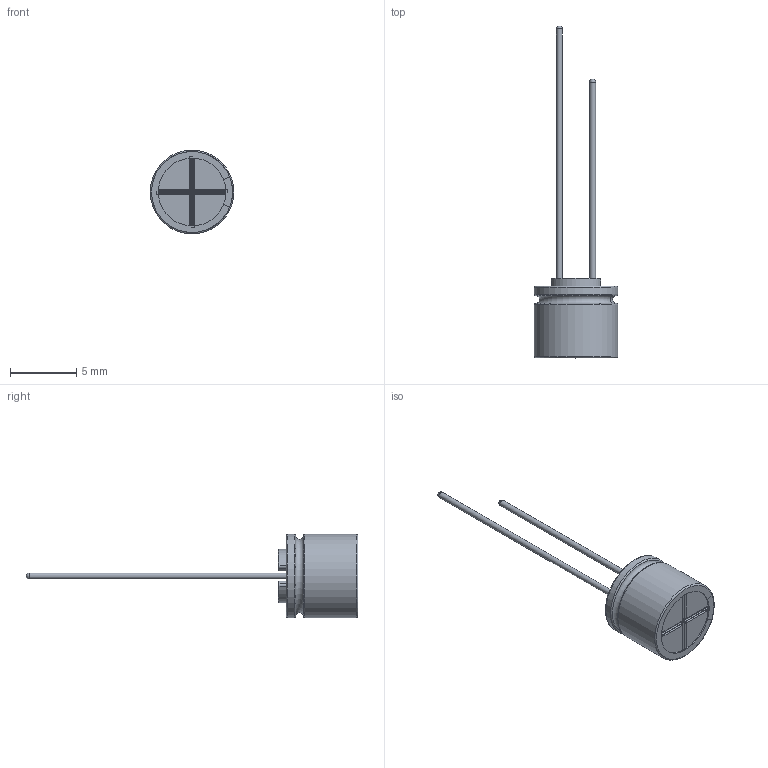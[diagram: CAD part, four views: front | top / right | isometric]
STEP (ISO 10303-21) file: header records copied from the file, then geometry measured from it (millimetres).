
FILE_DESCRIPTION(/* description */ (''),/* implementation_level */ '2;1');
FILE_NAME(/* name */ '6.3x6_Lead.stp',/* time_stamp */ '2017-09-05T13:39:57+09:00',/* author */ (''),/* organization */ (''),/* preprocessor_version */ 'ST-DEVELOPER v16',/* originating_system */ 'SIEMENS PLM Software NX 11.0',/* authorisation */ '');
FILE_SCHEMA (('AUTOMOTIVE_DESIGN { 1 0 10303 214 3 1 1 1 }'));
Length unit declared in the file: millimetre
Products named in the file (1): 6.3x6_Lead_0
Bounding box: 6.29 x 25 x 6.3 mm (x, y, z)
Volume: 171.3 mm3; surface area: 492 mm2
Topology: 3 solids, 3 shells, 120 faces, 296 edges, 185 vertices
Faces by surface type: cylinder 52, plane 31, torus 27, sphere 6, bspline 4
Full cylindrical faces by diameter (mm): 0.45 x2, 6.1 x2
Entity records: 4235 total; most frequent: CARTESIAN_POINT 701, DIRECTION 684, ORIENTED_EDGE 568, EDGE_CURVE 284, AXIS2_PLACEMENT_3D 283, VERTEX_POINT 180, CIRCLE 158, EDGE_LOOP 130
